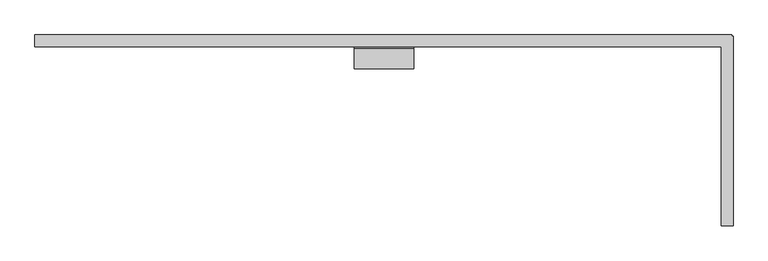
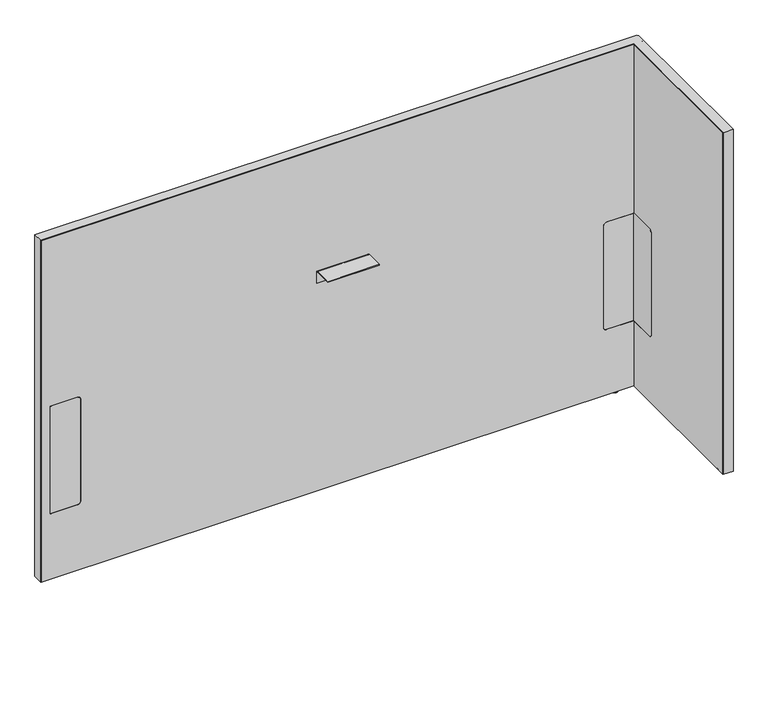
"""IFC4 building model written with IfcOpenShell, lengths in millimetres: furniture geometry, Steelcase - Answer Solution - Boundary Screen - L Return - Single Sided : 42H x 69W."""

from ifc_helpers import new_model, si_unit, point, frame, frame_2d, origin, place, context, project, spatial, polyline, circle_curve, ellipse_curve, trimmed, segment, composite_curve, outline, extrude, faceted_brep, source, transform, mapped, element, save
from ifc_brep_helpers import plane_surface, cylinder_surface, revolved_surface, advanced_brep


def furniture_8b128e48(model_context):
    return source(origin(), model_context, "Body", "SolidModel", [
        extrude(outline(composite_curve([segment(polyline([(-109.3501471, 549.6162029), (-29.0550397, 549.6162029), (-29.0550397, 213.7762137), (-109.3501471, 213.7762137)]), True, "CONTINUOUS"), segment(trimmed(circle_curve(frame_2d((-109.3501471, 223.9362137)), 10.16), [point((-109.3501471, 213.7762137))], [point((-119.5101471, 223.9362137))], False, "CARTESIAN"), True, "CONTINUOUS"), segment(polyline([(-119.5101471, 223.9362137), (-119.5101471, 539.4562029)]), True, "CONTINUOUS"), segment(trimmed(circle_curve(frame_2d((-109.3501471, 539.4562029)), 10.16), [point((-119.5101471, 539.4562029))], [point((-109.3501471, 549.6162029))], False, "CARTESIAN"), True, "CONTINUOUS")], self_intersect=False)), frame((1982.4191891, 0.0, 0.0), z_axis=(1.0, 0.0, 0.0), x_axis=(0.0, 1.0, 0.0)), (0.0, 0.0, 1.0), 0.6401544),
        advanced_brep(
        [(1997.2672074, -448.0136072, 0.0), (2004.2216144, -448.0136072, 0.0), (1990.3128003, -448.0136072, 0.0), (2005.6762685, -448.0136072, 1.2700001), (1988.8581463, -448.0136072, 1.2700001), (2005.6762685, -448.0136072, 2.9673238), (1988.8581463, -448.0136072, 2.9673238), (2006.6427877, -448.0136072, 2.9673238), (1987.891627, -448.0136072, 2.9673238), (2006.6427877, -448.0136072, 9.9059849), (1987.891627, -448.0136072, 9.9059849), (1997.2672074, -448.0136072, 9.9059849)],
        [
            (0, 1),
            (1, 2, circle_curve(frame((1997.2672074, -448.0136072, 0.0), z_axis=(0.0, 0.0, -1.0), x_axis=(1.0, 0.0, 0.0)), 6.9544071)),
            (2, 0),
            (2, 1, circle_curve(frame((1997.2672074, -448.0136072, 0.0), z_axis=(0.0, 0.0, -1.0), x_axis=(1.0, 0.0, 0.0)), 6.9544071)),
            (1, 3, circle_curve(frame((2004.3945484, -448.0136072, 1.2700001), z_axis=(0.0, -1.0, 0.0), x_axis=(0.0, 0.0, 1.0)), 1.2817201)),
            (3, 4, circle_curve(frame((1997.2672074, -448.0136072, 1.2700001), z_axis=(0.0, 0.0, -1.0), x_axis=(1.0, 0.0, 0.0)), 8.4090611)),
            (4, 2, circle_curve(frame((1990.1398663, -448.0136072, 1.2700001), z_axis=(0.0, -1.0, 0.0), x_axis=(0.0, 0.0, 1.0)), 1.2817201)),
            (4, 3, circle_curve(frame((1997.2672074, -448.0136072, 1.2700001), z_axis=(0.0, 0.0, -1.0), x_axis=(1.0, 0.0, 0.0)), 8.4090611)),
            (3, 5),
            (5, 6, circle_curve(frame((1997.2672074, -448.0136072, 2.9673238), z_axis=(0.0, 0.0, -1.0), x_axis=(1.0, 0.0, 0.0)), 8.4090611)),
            (6, 4),
            (6, 5, circle_curve(frame((1997.2672074, -448.0136072, 2.9673238), z_axis=(0.0, 0.0, -1.0), x_axis=(1.0, 0.0, 0.0)), 8.4090611)),
            (5, 7),
            (7, 8, circle_curve(frame((1997.2672074, -448.0136072, 2.9673238), z_axis=(0.0, 0.0, -1.0), x_axis=(1.0, 0.0, 0.0)), 9.3755804)),
            (8, 6),
            (8, 7, circle_curve(frame((1997.2672074, -448.0136072, 2.9673238), z_axis=(0.0, 0.0, -1.0), x_axis=(1.0, 0.0, 0.0)), 9.3755804)),
            (7, 9),
            (9, 10, circle_curve(frame((1997.2672074, -448.0136072, 9.9059849), z_axis=(0.0, 0.0, -1.0), x_axis=(1.0, 0.0, 0.0)), 9.3755804)),
            (10, 8),
            (10, 9, circle_curve(frame((1997.2672074, -448.0136072, 9.9059849), z_axis=(0.0, 0.0, -1.0), x_axis=(1.0, 0.0, 0.0)), 9.3755804)),
            (9, 11),
            (11, 10),
        ],
        [
            plane_surface(frame((1997.2672074, -448.0136072, 0.0), z_axis=(0.0, 0.0, -1.0), x_axis=(1.0, 0.0, 0.0))),
            revolved_surface(trimmed(ellipse_curve(frame((2004.3945484, -448.0136072, 1.2700001), z_axis=(0.0, 1.0, 0.0), x_axis=(0.0, 0.0, 1.0)), 1.2817201, 1.2817201), [point((2005.6762685, -448.0136072, 1.2700001))], [point((2004.2216144, -448.0136072, 0.0))], True, "CARTESIAN"), (1997.2672074, -448.0136072, 9.9059849), (0.0, 0.0, -1.0)),
            cylinder_surface(frame((1997.2672074, -448.0136072, 9.9059849), z_axis=(0.0, 0.0, -1.0), x_axis=(1.0, 0.0, 0.0)), 8.4090611),
            plane_surface(frame((1997.2672074, -448.0136072, 2.9673238), z_axis=(0.0, 0.0, -1.0), x_axis=(1.0, 0.0, 0.0))),
            cylinder_surface(frame((1997.2672074, -448.0136072, 9.9059849), z_axis=(0.0, 0.0, -1.0), x_axis=(1.0, 0.0, 0.0)), 9.3755804),
            plane_surface(frame((1997.2672074, -448.0136072, 9.9059849), z_axis=(0.0, 0.0, 1.0), x_axis=(1.0, 0.0, 0.0))),
        ],
        [
            (0, [[1, 2, 3]]),
            (0, [[-3, 4, -1]]),
            (1, [[-2, 5, 6, 7]]),
            (1, [[-4, -7, 8, -5]]),
            (2, [[-6, 9, 10, 11]]),
            (2, [[-8, -11, 12, -9]]),
            (3, [[-10, 13, 14, 15]]),
            (3, [[-12, -15, 16, -13]]),
            (4, [[-14, 17, 18, 19]]),
            (4, [[-16, -19, 20, -17]]),
            (5, [[-18, 21, 22]]),
            (5, [[-20, -22, -21]]),
        ],
    ),
        faceted_brep([(2008.8531179, 0.0, 1077.722), (2008.8531179, 0.0, 9.9059849), (2007.8621491, 0.0, 9.9059849), (2007.8621491, 0.0, 1076.742118), (230.8097779, 0.0, 1076.742118), (230.8097779, 0.0, 9.9059849), (229.8191891, 0.0, 9.9059849), (229.8191891, 0.0, 1077.722), (229.8191891, -29.6898332, 1077.722), (229.8191891, -29.6898332, 9.9059849), (230.8097779, -29.6898332, 9.9059849), (230.8097779, -29.6898332, 1076.742118), (1982.4191891, -29.6898332, 1076.742118), (1982.4191891, -29.6898332, 1077.722), (2007.8621491, -29.6898332, 1076.742118), (2007.8621491, -29.6898332, 9.9059849), (2008.8531179, -29.6898332, 9.9059849), (2008.8531179, -29.6898332, 1076.742118), (2008.8531179, -3.2625916, 1077.722), (2008.8531179, -3.2625916, 9.9059849), (2008.8531179, -4.252647, 9.9059849), (2008.8531179, -4.252647, 1076.742118), (2012.1152256, -3.2625916, 9.9059849), (2012.1152256, -4.252647, 9.9059849), (2007.8621491, -4.252647, 9.9059849), (1982.4191891, -4.252647, 9.9059849), (1982.4191891, -3.2625916, 9.9059849), (2007.8621491, -3.2625916, 9.9059849), (1982.4191891, -486.8898332, 1077.722), (2012.1152256, -486.8898332, 1077.722), (2012.1152256, -3.2625916, 1077.722), (2007.8621491, -3.2625916, 1076.742118), (2007.8621491, -4.252647, 1076.742118), (1982.4191891, -3.2625916, 1076.742118), (1982.4191891, -4.252647, 1076.742118), (2012.1152256, -4.252647, 1076.742118), (2012.1152256, -485.899196, 1076.742118), (1982.4191891, -485.899196, 1076.742118), (1982.4191891, -485.899196, 9.9059849), (1982.4191891, -486.8898332, 9.9059849), (2012.1152256, -486.8898332, 9.9059849), (2012.1152256, -485.899196, 9.9059849)], [[[0, 1, 2, 3, 4, 5, 6, 7]], [[8, 9, 10, 11, 12, 13]], [[14, 15, 16, 17]], [[1, 0, 18, 19]], [[17, 16, 20, 21]], [[2, 1, 19, 22, 23, 20, 16, 15, 24, 25, 26, 27]], [[7, 6, 9, 8]], [[0, 7, 8, 13, 28, 29, 30, 18]], [[3, 2, 27, 31]], [[15, 14, 32, 24]], [[4, 3, 31, 33, 34, 32, 14, 17, 21, 35, 36, 37, 12, 11]], [[5, 4, 11, 10]], [[6, 5, 10, 9]], [[26, 25, 34, 33]], [[37, 38, 39, 28, 13, 12]], [[29, 40, 41, 36, 35, 23, 22, 30]], [[27, 26, 33, 31]], [[30, 22, 19, 18]], [[34, 25, 24, 32]], [[23, 35, 21, 20]], [[38, 37, 36, 41]], [[39, 38, 41, 40]], [[28, 39, 40, 29]]]),
        extrude(outline(composite_curve([segment(polyline([(-86.8398151, 696.4680019), (-86.8398151, 698.5), (-34.9450855, 698.5)]), True, "CONTINUOUS"), segment(trimmed(circle_curve(frame_2d((-34.9450855, 693.2447477)), 5.2552523), [point((-34.9450855, 698.5))], [point((-29.6898332, 693.2447477))], False, "CARTESIAN"), True, "CONTINUOUS"), segment(polyline([(-29.6898332, 693.2447477), (-29.6898332, 660.4), (-31.7218162, 660.4), (-31.7218162, 693.0058743)]), True, "CONTINUOUS"), segment(trimmed(circle_curve(frame_2d((-35.1839438, 693.0058743)), 3.4621276), [point((-31.7218162, 693.0058743))], [point((-35.1839438, 696.4680019))], True, "CARTESIAN"), True, "CONTINUOUS"), segment(polyline([(-35.1839438, 696.4680019), (-86.8398151, 696.4680019)]), True, "CONTINUOUS")], self_intersect=False)), frame((1044.7685899, 0.0, 0.0), z_axis=(1.0, 0.0, 0.0), x_axis=(0.0, 1.0, 0.0)), (0.0, 0.0, 1.0), 152.4000969),
        advanced_brep(
        [(1934.9246853, -23.7588726, 9.9059849), (1934.9246853, -5.9309607, 9.9059849), (1934.9246853, -14.8449166, 9.9059849), (1934.9246853, -23.7588726, 2.9673238), (1934.9246853, -5.9309607, 2.9673238), (1934.9246853, -22.7915354, 2.9673238), (1934.9246853, -6.8982978, 2.9673238), (1934.9246853, -22.7915354, 1.6569081), (1934.9246853, -6.8982978, 1.6569081), (1934.9246853, -21.1346274, 0.0), (1934.9246853, -8.5552059, 0.0), (1934.9246853, -14.8449166, 0.0)],
        [
            (0, 1, circle_curve(frame((1934.9246853, -14.8449166, 9.9059849), z_axis=(0.0, 0.0, 1.0), x_axis=(0.0, 1.0, 0.0)), 8.913956)),
            (1, 2),
            (2, 0),
            (1, 0, circle_curve(frame((1934.9246853, -14.8449166, 9.9059849), z_axis=(0.0, 0.0, 1.0), x_axis=(0.0, 1.0, 0.0)), 8.913956)),
            (3, 4, circle_curve(frame((1934.9246853, -14.8449166, 2.9673238), z_axis=(0.0, 0.0, 1.0), x_axis=(0.0, 1.0, 0.0)), 8.913956)),
            (4, 1),
            (0, 3),
            (4, 3, circle_curve(frame((1934.9246853, -14.8449166, 2.9673238), z_axis=(0.0, 0.0, 1.0), x_axis=(0.0, 1.0, 0.0)), 8.913956)),
            (5, 6, circle_curve(frame((1934.9246853, -14.8449166, 2.9673238), z_axis=(0.0, 0.0, 1.0), x_axis=(0.0, 1.0, 0.0)), 7.9466188)),
            (6, 4),
            (3, 5),
            (6, 5, circle_curve(frame((1934.9246853, -14.8449166, 2.9673238), z_axis=(0.0, 0.0, 1.0), x_axis=(0.0, 1.0, 0.0)), 7.9466188)),
            (7, 8, circle_curve(frame((1934.9246853, -14.8449166, 1.6569081), z_axis=(0.0, 0.0, 1.0), x_axis=(0.0, 1.0, 0.0)), 7.9466188)),
            (8, 6),
            (5, 7),
            (8, 7, circle_curve(frame((1934.9246853, -14.8449166, 1.6569081), z_axis=(0.0, 0.0, 1.0), x_axis=(0.0, 1.0, 0.0)), 7.9466188)),
            (9, 10, circle_curve(frame((1934.9246853, -14.8449166, 0.0), z_axis=(0.0, 0.0, 1.0), x_axis=(0.0, 1.0, 0.0)), 6.2897107)),
            (10, 8, circle_curve(frame((1934.9246853, -8.5552059, 1.6569081), z_axis=(1.0, 0.0, 0.0), x_axis=(0.0, 1.0, 0.0)), 1.6569081)),
            (7, 9, circle_curve(frame((1934.9246853, -21.1346274, 1.6569081), z_axis=(1.0, 0.0, 0.0), x_axis=(0.0, -1.0, 0.0)), 1.6569081)),
            (10, 9, circle_curve(frame((1934.9246853, -14.8449166, 0.0), z_axis=(0.0, 0.0, 1.0), x_axis=(0.0, 1.0, 0.0)), 6.2897107)),
            (11, 10),
            (9, 11),
        ],
        [
            plane_surface(frame((1934.9246853, -14.8449166, 9.9059849), z_axis=(0.0, 0.0, 1.0), x_axis=(0.0, 1.0, 0.0))),
            cylinder_surface(frame((1934.9246853, -14.8449166, 9.9059849), z_axis=(0.0, 0.0, -1.0), x_axis=(0.0, 1.0, 0.0)), 8.913956),
            plane_surface(frame((1934.9246853, -14.8449166, 2.9673238), z_axis=(0.0, 0.0, -1.0), x_axis=(0.0, 1.0, 0.0))),
            cylinder_surface(frame((1934.9246853, -14.8449166, 9.9059849), z_axis=(0.0, 0.0, -1.0), x_axis=(0.0, 1.0, 0.0)), 7.9466188),
            revolved_surface(trimmed(ellipse_curve(frame((1934.9246853, -8.5552059, 1.6569081), z_axis=(-1.0, 0.0, 0.0), x_axis=(0.0, 1.0, 0.0)), 1.6569081, 1.6569081), [point((1934.9246853, -6.8982978, 1.6569081))], [point((1934.9246853, -8.5552059, 0.0))], True, "CARTESIAN"), (1934.9246853, -14.8449166, 9.9059849), (0.0, 0.0, -1.0)),
            plane_surface(frame((1934.9246853, -14.8449166, 0.0), z_axis=(0.0, 0.0, -1.0), x_axis=(0.0, 1.0, 0.0))),
        ],
        [
            (0, [[1, 2, 3]]),
            (0, [[4, -3, -2]]),
            (1, [[5, 6, -1, 7]]),
            (1, [[8, -7, -4, -6]]),
            (2, [[9, 10, -5, 11]]),
            (2, [[12, -11, -8, -10]]),
            (3, [[13, 14, -9, 15]]),
            (3, [[16, -15, -12, -14]]),
            (4, [[17, 18, -13, 19]]),
            (4, [[20, -19, -16, -18]]),
            (5, [[21, -17, 22]]),
            (5, [[-22, -20, -21]]),
        ],
    ),
        advanced_brep(
        [(230.8097779, 0.0, 1076.742118), (2007.8621491, 0.0, 1076.742118), (2007.8621491, 0.0, 9.9059849), (230.8097779, 0.0, 9.9059849), (347.9483813, -29.0550397, 539.4562029), (337.7883813, -29.0550397, 549.6162029), (258.1344836, -29.0550397, 549.6162029), (258.1344836, -29.0550397, 213.7762137), (337.7883813, -29.0550397, 213.7762137), (347.9483813, -29.0550397, 223.9362137), (1983.0593435, -29.0550397, 213.7762137), (1983.0593435, -29.0550397, 549.6162029), (1902.5109268, -29.0550397, 549.6162029), (1892.3509268, -29.0550397, 539.4562029), (1892.3509268, -29.0550397, 223.9362137), (1902.5109268, -29.0550397, 213.7762137), (230.8097779, -29.6898332, 1076.742118), (230.8097779, -29.6898332, 9.9059849), (1982.4191891, -29.6898332, 9.9059849), (1982.4191891, -29.6898332, 213.7762137), (1902.5109268, -29.6898332, 213.7762137), (1892.3509268, -29.6898332, 223.9362137), (1892.3509268, -29.6898332, 539.4562029), (1902.5109268, -29.6898332, 549.6162029), (1982.4191891, -29.6898332, 549.6162029), (1982.4191891, -29.6898332, 1076.742118), (337.7883813, -29.6898332, 549.6162029), (347.9483813, -29.6898332, 539.4562029), (347.9483813, -29.6898332, 223.9362137), (337.7883813, -29.6898332, 213.7762137), (258.1344836, -29.6898332, 213.7762137), (258.1344836, -29.6898332, 549.6162029), (2007.8621491, -4.252647, 9.9059849), (2012.1152256, -4.252647, 9.9059849), (2012.1152256, -485.899196, 9.9059849), (1982.4191891, -485.899196, 9.9059849), (2007.8621491, -4.252647, 1076.742118), (1982.4191891, -485.899196, 1076.742118), (2012.1152256, -485.899196, 1076.742118), (2012.1152256, -4.252647, 1076.742118), (1983.0593435, -109.3501471, 549.6162029), (1982.4191891, -109.3501471, 549.6162029), (1983.0593435, -109.3501471, 213.7762137), (1983.0593435, -119.5101471, 223.9362137), (1983.0593435, -119.5101471, 539.4562029), (1982.4191891, -109.3501471, 213.7762137), (1982.4191891, -119.5101471, 539.4562029), (1982.4191891, -119.5101471, 223.9362137)],
        [
            (0, 1),
            (1, 2),
            (2, 3),
            (3, 0),
            (4, 5, circle_curve(frame((337.7883813, -29.0550397, 539.4562029), z_axis=(0.0, -1.0, 0.0), x_axis=(0.0, 0.0, 1.0)), 10.16)),
            (5, 6),
            (6, 7),
            (7, 8),
            (8, 9, circle_curve(frame((337.7883813, -29.0550397, 223.9362137), z_axis=(0.0, -1.0, 0.0), x_axis=(0.0, 0.0, 1.0)), 10.16)),
            (9, 4),
            (10, 11),
            (11, 12),
            (12, 13, circle_curve(frame((1902.5109268, -29.0550397, 539.4562029), z_axis=(0.0, -1.0, 0.0), x_axis=(0.0, 0.0, 1.0)), 10.16)),
            (13, 14),
            (14, 15, circle_curve(frame((1902.5109268, -29.0550397, 223.9362137), z_axis=(0.0, -1.0, 0.0), x_axis=(0.0, 0.0, 1.0)), 10.16)),
            (15, 10),
            (16, 17),
            (17, 18),
            (18, 19),
            (19, 20),
            (20, 21, circle_curve(frame((1902.5109268, -29.6898332, 223.9362137), z_axis=(0.0, 1.0, 0.0), x_axis=(0.0, 0.0, 1.0)), 10.16)),
            (21, 22),
            (22, 23, circle_curve(frame((1902.5109268, -29.6898332, 539.4562029), z_axis=(0.0, 1.0, 0.0), x_axis=(0.0, 0.0, 1.0)), 10.16)),
            (23, 24),
            (24, 25),
            (25, 16),
            (26, 27, circle_curve(frame((337.7883813, -29.6898332, 539.4562029), z_axis=(0.0, 1.0, 0.0), x_axis=(0.0, 0.0, 1.0)), 10.16)),
            (27, 28),
            (28, 29, circle_curve(frame((337.7883813, -29.6898332, 223.9362137), z_axis=(0.0, 1.0, 0.0), x_axis=(0.0, 0.0, 1.0)), 10.16)),
            (29, 30),
            (30, 31),
            (31, 26),
            (16, 0),
            (3, 17),
            (2, 32),
            (32, 33),
            (33, 34),
            (34, 35),
            (35, 18),
            (1, 36),
            (36, 32),
            (25, 37),
            (37, 38),
            (38, 39),
            (39, 36),
            (26, 5),
            (4, 27),
            (9, 28),
            (8, 29),
            (7, 30),
            (6, 31),
            (11, 40),
            (40, 41),
            (41, 24),
            (23, 12),
            (42, 43, circle_curve(frame((1983.0593435, -109.3501471, 223.9362137), z_axis=(-1.0, 0.0, 0.0), x_axis=(0.0, 1.0, 0.0)), 10.16)),
            (43, 44),
            (44, 40, circle_curve(frame((1983.0593435, -109.3501471, 539.4562029), z_axis=(-1.0, 0.0, 0.0), x_axis=(0.0, 1.0, 0.0)), 10.16)),
            (10, 42),
            (15, 20),
            (19, 45),
            (45, 42),
            (14, 21),
            (13, 22),
            (35, 37),
            (41, 46, circle_curve(frame((1982.4191891, -109.3501471, 539.4562029), z_axis=(1.0, 0.0, 0.0), x_axis=(0.0, 1.0, 0.0)), 10.16)),
            (46, 47),
            (47, 45, circle_curve(frame((1982.4191891, -109.3501471, 223.9362137), z_axis=(1.0, 0.0, 0.0), x_axis=(0.0, 1.0, 0.0)), 10.16)),
            (38, 34),
            (33, 39),
            (44, 46),
            (43, 47),
        ],
        [
            plane_surface(frame((347.9483813, 0.0, 549.6162029), z_axis=(0.0, 1.0, 0.0), x_axis=(0.0, 0.0, -1.0))),
            plane_surface(frame((347.9483813, -29.0550397, 549.6162029), z_axis=(0.0, -1.0, 0.0), x_axis=(0.0, 0.0, 1.0))),
            plane_surface(frame((2007.8621491, -29.6898332, 1076.742118), z_axis=(0.0, -1.0, 0.0), x_axis=(-1.0, 0.0, 0.0))),
            plane_surface(frame((230.8097779, 0.0, 9.9059849), z_axis=(-1.0, 0.0, 0.0), x_axis=(0.0, -1.0, 0.0))),
            plane_surface(frame((2007.8621491, 0.0, 9.9059849), z_axis=(0.0, 0.0, -1.0), x_axis=(0.0, -1.0, 0.0))),
            plane_surface(frame((2007.8621491, 0.0, 1076.742118), z_axis=(1.0, 0.0, 0.0), x_axis=(0.0, -1.0, 0.0))),
            plane_surface(frame((230.8097779, 0.0, 1076.742118), z_axis=(0.0, 0.0, 1.0), x_axis=(0.0, -1.0, 0.0))),
            revolved_surface(polyline([(337.7883813, -29.6898332, 549.6162029), (337.7883813, -29.0550397, 549.6162029)]), (337.7883813, -29.6898332, 539.4562029), (0.0, -1.0, 0.0)),
            plane_surface(frame((347.9483813, 0.0, 223.9362137), z_axis=(-1.0, 0.0, 0.0), x_axis=(0.0, -1.0, 0.0))),
            revolved_surface(polyline([(337.7883813, -29.6898332, 234.0962137), (337.7883813, -29.0550397, 234.0962137)]), (337.7883813, -29.6898332, 223.9362137), (0.0, -1.0, 0.0)),
            plane_surface(frame((258.1344836, 0.0, 213.7762137), z_axis=(0.0, 0.0, 1.0), x_axis=(0.0, -1.0, 0.0))),
            plane_surface(frame((258.1344836, 0.0, 549.6162029), z_axis=(1.0, 0.0, 0.0), x_axis=(0.0, -1.0, 0.0))),
            plane_surface(frame((337.7883813, 0.0, 549.6162029), z_axis=(0.0, 0.0, -1.0), x_axis=(0.0, -1.0, 0.0))),
            plane_surface(frame((1983.0593435, 0.0, 549.6162029), z_axis=(0.0, 0.0, -1.0), x_axis=(0.0, -1.0, 0.0))),
            plane_surface(frame((1983.0593435, 0.0, 213.7762137), z_axis=(-1.0, 0.0, 0.0), x_axis=(0.0, -1.0, 0.0))),
            plane_surface(frame((1902.5109268, 0.0, 213.7762137), z_axis=(0.0, 0.0, 1.0), x_axis=(0.0, -1.0, 0.0))),
            revolved_surface(polyline([(1902.5109268, -29.6898332, 234.0962137), (1902.5109268, -29.0550397, 234.0962137)]), (1902.5109268, -29.6898332, 223.9362137), (0.0, -1.0, 0.0)),
            plane_surface(frame((1892.3509268, 0.0, 539.4562029), z_axis=(1.0, 0.0, 0.0), x_axis=(0.0, -1.0, 0.0))),
            revolved_surface(polyline([(1902.5109268, -29.6898332, 549.6162029), (1902.5109268, -29.0550397, 549.6162029)]), (1902.5109268, -29.6898332, 539.4562029), (0.0, -1.0, 0.0)),
            plane_surface(frame((1982.4191891, -485.899196, 1076.742118), z_axis=(-1.0, 0.0, 0.0), x_axis=(0.0, 0.0, 1.0))),
            plane_surface(frame((2012.1152256, -485.899196, 1076.742118), z_axis=(1.0, 0.0, 0.0), x_axis=(0.0, 0.0, -1.0))),
            plane_surface(frame((2012.1152256, -4.252647, 9.9059849), z_axis=(0.0, 1.0, 0.0), x_axis=(-1.0, 0.0, 0.0))),
            plane_surface(frame((2012.1152256, -485.899196, 1076.742118), z_axis=(0.0, -1.0, 0.0), x_axis=(-1.0, 0.0, 0.0))),
            revolved_surface(polyline([(1982.4191891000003, -99.1901471, 539.4562029), (1983.0593435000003, -99.1901471, 539.4562029)]), (-340.6902705, -109.3501471, 539.4562029), (-1.0, 0.0, 0.0)),
            plane_surface(frame((2012.1152256, -119.5101471, 223.9362137), z_axis=(0.0, 1.0, 0.0), x_axis=(-1.0, 0.0, 0.0))),
            revolved_surface(polyline([(1982.4191891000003, -99.1901471, 223.9362137), (1983.0593435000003, -99.1901471, 223.9362137)]), (-340.6902705, -109.3501471, 223.9362137), (-1.0, 0.0, 0.0)),
        ],
        [
            (0, [[1, 2, 3, 4]]),
            (1, [[5, 6, 7, 8, 9, 10]]),
            (1, [[11, 12, 13, 14, 15, 16]]),
            (2, [[17, 18, 19, 20, 21, 22, 23, 24, 25, 26], [27, 28, 29, 30, 31, 32]]),
            (3, [[-17, 33, -4, 34]]),
            (4, [[-3, 35, 36, 37, 38, 39, -18, -34]]),
            (5, [[-2, 40, 41, -35]]),
            (6, [[-1, -33, -26, 42, 43, 44, 45, -40]]),
            (7, [[-27, 46, -5, 47]]),
            (8, [[-28, -47, -10, 48]]),
            (9, [[-29, -48, -9, 49]]),
            (10, [[-30, -49, -8, 50]]),
            (11, [[-31, -50, -7, 51]]),
            (12, [[-32, -51, -6, -46]]),
            (13, [[52, 53, 54, -24, 55, -12]]),
            (14, [[56, 57, 58, -52, -11, 59]]),
            (15, [[-59, -16, 60, -20, 61, 62]]),
            (16, [[-21, -60, -15, 63]]),
            (17, [[-22, -63, -14, 64]]),
            (18, [[-23, -64, -13, -55]]),
            (19, [[65, -42, -25, -54, 66, 67, 68, -61, -19, -39]]),
            (20, [[69, -37, 70, -44]]),
            (21, [[-70, -36, -41, -45]]),
            (22, [[-65, -38, -69, -43]]),
            (23, [[-66, -53, -58, 71]]),
            (24, [[-67, -71, -57, 72]]),
            (25, [[-68, -72, -56, -62]]),
        ],
    ),
        extrude(outline(composite_curve([segment(polyline([(549.6162029, 337.7883813), (549.6162029, 258.1344836), (213.7762137, 258.1344836), (213.7762137, 337.7883813)]), True, "CONTINUOUS"), segment(trimmed(circle_curve(frame_2d((223.9362137, 337.7883813)), 10.16), [point((213.7762137, 337.7883813))], [point((223.9362137, 347.9483813))], False, "CARTESIAN"), True, "CONTINUOUS"), segment(polyline([(223.9362137, 347.9483813), (539.4562029, 347.9483813)]), True, "CONTINUOUS"), segment(trimmed(circle_curve(frame_2d((539.4562029, 337.7883813)), 10.16), [point((539.4562029, 347.9483813))], [point((549.6162029, 337.7883813))], False, "CARTESIAN"), True, "CONTINUOUS")], self_intersect=False)), frame((0.0, -29.6898332, 0.0), z_axis=(0.0, 1.0, 0.0), x_axis=(0.0, 0.0, 1.0)), (0.0, 0.0, 1.0), 0.6347935),
        extrude(outline(composite_curve([segment(trimmed(circle_curve(frame_2d((539.4562029, 1902.5109268)), 10.16), [point((549.6162029, 1902.5109268))], [point((539.4562029, 1892.3509268))], False, "CARTESIAN"), True, "CONTINUOUS"), segment(polyline([(539.4562029, 1892.3509268), (223.9362137, 1892.3509268)]), True, "CONTINUOUS"), segment(trimmed(circle_curve(frame_2d((223.9362137, 1902.5109268)), 10.16), [point((223.9362137, 1892.3509268))], [point((213.7762137, 1902.5109268))], False, "CARTESIAN"), True, "CONTINUOUS"), segment(polyline([(213.7762137, 1902.5109268), (213.7762137, 1982.4191891), (549.6162029, 1982.4191891), (549.6162029, 1902.5109268)]), True, "CONTINUOUS")], self_intersect=False)), frame((0.0, -29.6898332, 0.0), z_axis=(0.0, 1.0, 0.0), x_axis=(0.0, 0.0, 1.0)), (0.0, 0.0, 1.0), 0.6347935),
    ])


if __name__ == "__main__":
    model = new_model("IFC4")
    model_context = context("Model", 3, world=origin())
    ifc_project = project(units=[si_unit("LENGTHUNIT", "METRE", prefix="MILLI")], contexts=[model_context])
    site = spatial("IfcSite", under=ifc_project)
    building = spatial("IfcBuilding", under=site)
    placement = place(None, origin())
    furniture_shape = furniture_8b128e48(model_context)
    element("IfcFurniture", 1, ObjectType="Steelcase - Answer Solution - Boundary Screen - L Return - Single Sided : 42H x 69W", at=placement, inside=building, context=model_context, shape_type="MappedRepresentation", body=[
        mapped(furniture_shape, transform((0.0, 0.0, 0.0), x_axis=(1.0, 0.0, 0.0), y_axis=(0.0, 1.0, 0.0), z_axis=(0.0, 0.0, 1.0))),
    ])
    save(model, "model.ifc")
